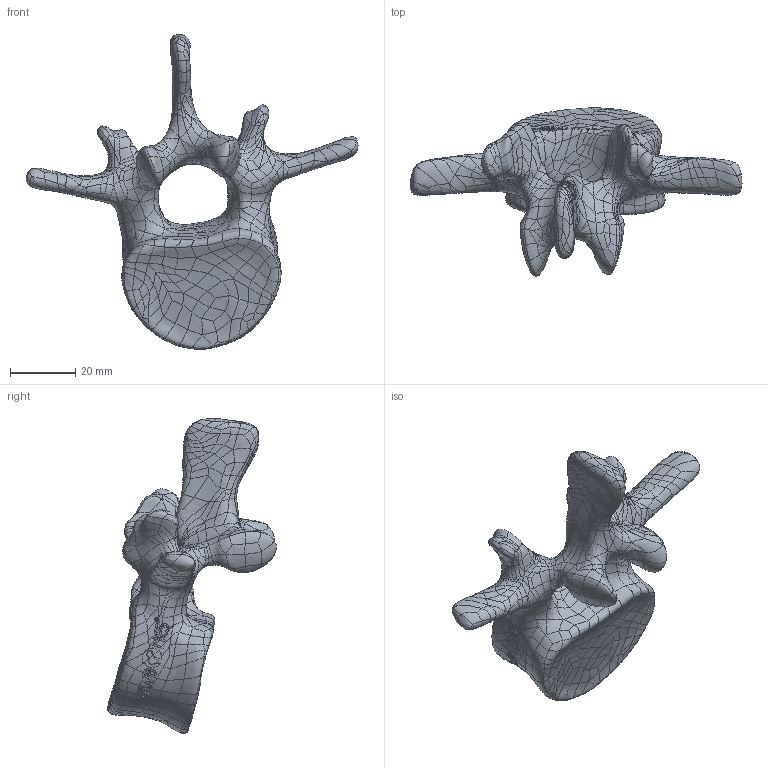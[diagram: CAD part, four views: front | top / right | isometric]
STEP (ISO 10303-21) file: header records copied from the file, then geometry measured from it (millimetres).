
FILE_DESCRIPTION (( 'STEP AP203' ), '1' );
FILE_NAME ('1375-50-2.STEP', '2026-08-04T15:55:14', ( '' ), ( '' ), 'SwSTEP 2.0', 'SolidWorks 2024', '' );
FILE_SCHEMA (( 'CONFIG_CONTROL_DESIGN' ));
Length unit declared in the file: millimetre
Products named in the file (1): 1375-50-2
Bounding box: 101.83 x 51.81 x 96.57 mm (x, y, z)
Volume: 53980.5 mm3; surface area: 13903.3 mm2
Topology: 1 solids, 1 shells, 1745 faces, 3681 edges, 1937 vertices
Faces by surface type: bspline 1745
Entity records: 380111 total; most frequent: CARTESIAN_POINT 356384, ORIENTED_EDGE 7362, B_SPLINE_CURVE_WITH_KNOTS 3681, EDGE_CURVE 3681, VERTEX_POINT 1937, EDGE_LOOP 1746, FACE_OUTER_BOUND 1745, ADVANCED_FACE 1745
